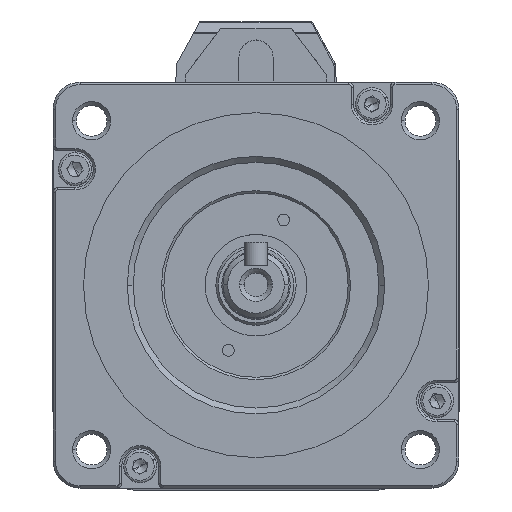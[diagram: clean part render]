
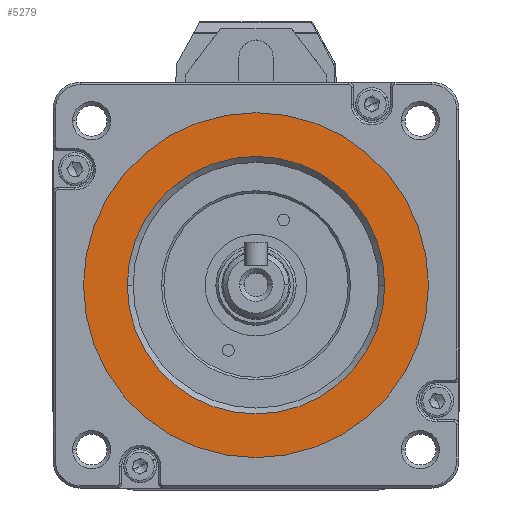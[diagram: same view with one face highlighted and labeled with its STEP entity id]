
A CAD part, top view. The second image highlights one B-rep face of the part: STEP entity #5279.
In plain terms, the highlighted planar face has unit normal (0, 0, 1) as drawn and (0, 0, -1) by its records, which use the part's own axes.
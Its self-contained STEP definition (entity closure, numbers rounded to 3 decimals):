
#386 = FACE_BOUND ( 'NONE', #20570, .T. ) ;
#1016 = CIRCLE ( 'NONE', #13715, 27.25 ) ;
#2257 = EDGE_CURVE ( 'NONE', #18649, #17551, #1016, .T. ) ;
#2515 = CARTESIAN_POINT ( 'NONE',  ( -36.5, 0., -1.6 ) ) ;
#3181 = EDGE_LOOP ( 'NONE', ( #19007, #15084 ) ) ;
#4154 = CARTESIAN_POINT ( 'NONE',  ( 36.5, 0., -1.6 ) ) ;
#4383 = ORIENTED_EDGE ( 'NONE', *, *, #2257, .T. ) ;
#4760 = DIRECTION ( 'NONE',  ( 0., 0., 1. ) ) ;
#4796 = AXIS2_PLACEMENT_3D ( 'NONE', #18856, #4760, #21240 ) ;
#5279 = ADVANCED_FACE ( 'NONE', ( #19237, #386 ), #12577, .T. ) ;
#5855 = DIRECTION ( 'NONE',  ( 0., 0., 1. ) ) ;
#7181 = CARTESIAN_POINT ( 'NONE',  ( -27.25, 0., -1.6 ) ) ;
#7614 = EDGE_CURVE ( 'NONE', #27349, #20927, #12178, .T. ) ;
#7875 = CARTESIAN_POINT ( 'NONE',  ( 27.25, 0., -1.6 ) ) ;
#8026 = CARTESIAN_POINT ( 'NONE',  ( 0., 0., -1.6 ) ) ;
#9304 = AXIS2_PLACEMENT_3D ( 'NONE', #12678, #29149, #15045 ) ;
#10410 = DIRECTION ( 'NONE',  ( -1., 0., 0. ) ) ;
#10839 = ORIENTED_EDGE ( 'NONE', *, *, #26835, .T. ) ;
#11450 = DIRECTION ( 'NONE',  ( 0., 0., 1. ) ) ;
#12178 = CIRCLE ( 'NONE', #25147, 36.5 ) ;
#12577 = PLANE ( 'NONE',  #9304 ) ;
#12678 = CARTESIAN_POINT ( 'NONE',  ( 0., 0., -1.6 ) ) ;
#13715 = AXIS2_PLACEMENT_3D ( 'NONE', #8026, #24469, #10410 ) ;
#15045 = DIRECTION ( 'NONE',  ( -1., 0., 0. ) ) ;
#15084 = ORIENTED_EDGE ( 'NONE', *, *, #7614, .F. ) ;
#17551 = VERTEX_POINT ( 'NONE', #7875 ) ;
#18649 = VERTEX_POINT ( 'NONE', #7181 ) ;
#18856 = CARTESIAN_POINT ( 'NONE',  ( 0., 0., -1.6 ) ) ;
#19007 = ORIENTED_EDGE ( 'NONE', *, *, #21265, .F. ) ;
#19237 = FACE_OUTER_BOUND ( 'NONE', #3181, .T. ) ;
#19968 = CARTESIAN_POINT ( 'NONE',  ( 0., 0., -1.6 ) ) ;
#20270 = CIRCLE ( 'NONE', #23854, 36.5 ) ;
#20570 = EDGE_LOOP ( 'NONE', ( #4383, #10839 ) ) ;
#20927 = VERTEX_POINT ( 'NONE', #4154 ) ;
#21240 = DIRECTION ( 'NONE',  ( -1., 0., 0. ) ) ;
#21265 = EDGE_CURVE ( 'NONE', #20927, #27349, #20270, .T. ) ;
#22322 = DIRECTION ( 'NONE',  ( -1., 0., 0. ) ) ;
#23854 = AXIS2_PLACEMENT_3D ( 'NONE', #19968, #5855, #22322 ) ;
#24469 = DIRECTION ( 'NONE',  ( 0., 0., 1. ) ) ;
#25147 = AXIS2_PLACEMENT_3D ( 'NONE', #25540, #11450, #27922 ) ;
#25540 = CARTESIAN_POINT ( 'NONE',  ( 0., 0., -1.6 ) ) ;
#26835 = EDGE_CURVE ( 'NONE', #17551, #18649, #28116, .T. ) ;
#27349 = VERTEX_POINT ( 'NONE', #2515 ) ;
#27922 = DIRECTION ( 'NONE',  ( -1., 0., 0. ) ) ;
#28116 = CIRCLE ( 'NONE', #4796, 27.25 ) ;
#29149 = DIRECTION ( 'NONE',  ( 0., 0., -1. ) ) ;
